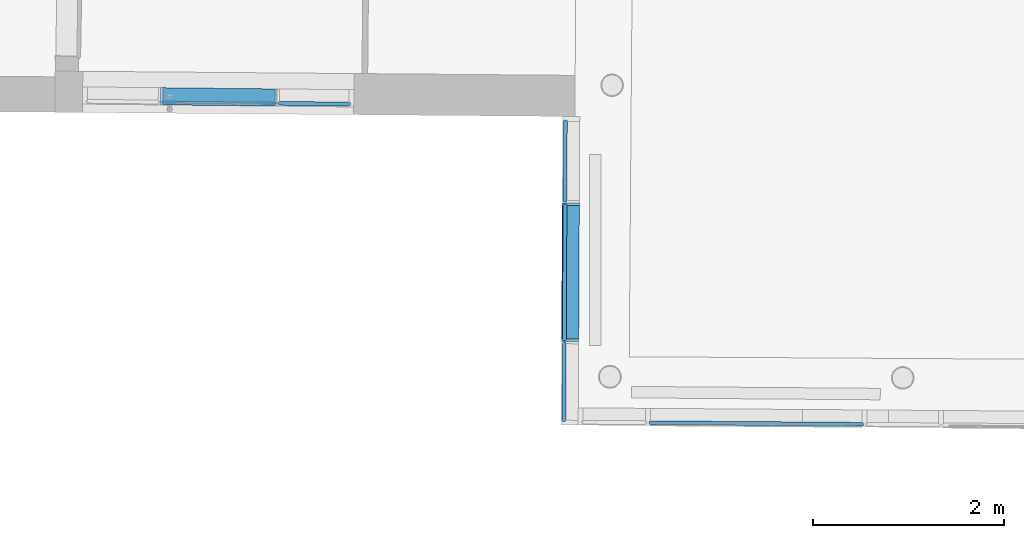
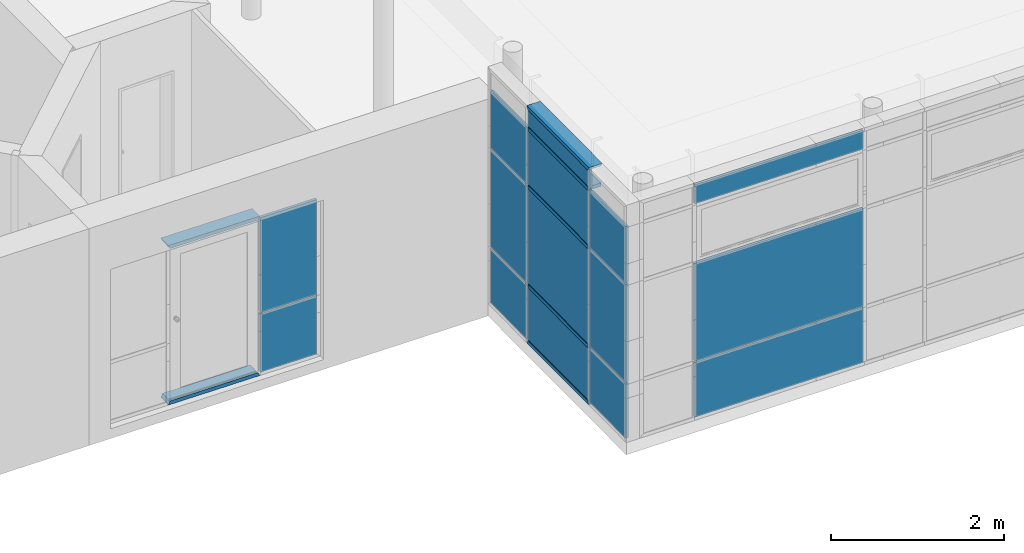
# One storey, part 139 of 196: 22 building element parts, 3 elements without a shape of their own.
"""IFC2X3 building model written with IfcOpenShell, lengths in metres."""

from ifc_helpers import new_model, entity, si_unit, converted_unit, derived_unit, money_unit, direction, frame, origin_with_axes, place, context, subcontext, project, spatial, faceted_brep, material, type_object, element, aggregate, save


model = new_model("IFC2X3")

# Units and contexts
model_context = context("Model", 3, precision=1e-05, world=origin_with_axes(), true_north=direction((0.0, 1.0)))
body_context = subcontext(model_context, "Body", "Model", "MODEL_VIEW")
ifc_project = project(units=[si_unit("LENGTHUNIT", "METRE"), si_unit("AREAUNIT", "SQUARE_METRE"), si_unit("VOLUMEUNIT", "CUBIC_METRE"), converted_unit("PLANEANGLEUNIT", "DEGREE", entity("IfcPlaneAngleMeasure", 0.0174532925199), si_unit("PLANEANGLEUNIT", "RADIAN"), dimensions=[0, 0, 0, 0, 0, 0, 0]), money_unit("EUR"), converted_unit("TIMEUNIT", "Year", entity("IfcTimeMeasure", 31556926.0), si_unit("TIMEUNIT", "SECOND"), dimensions=[0, 0, 1, 0, 0, 0, 0]), si_unit("MASSUNIT", "GRAM", prefix="KILO"), si_unit("THERMODYNAMICTEMPERATUREUNIT", "DEGREE_CELSIUS"), si_unit("LUMINOUSINTENSITYUNIT", "LUMEN"), si_unit("ENERGYUNIT", "JOULE", prefix="MEGA"), derived_unit("THERMALCONDUCTANCEUNIT", [(si_unit("POWERUNIT", "WATT"), 1), (si_unit("LENGTHUNIT", "METRE"), -1), (si_unit("THERMODYNAMICTEMPERATUREUNIT", "KELVIN"), -1)]), derived_unit("SPECIFICHEATCAPACITYUNIT", [(si_unit("ENERGYUNIT", "JOULE"), 1), (si_unit("MASSUNIT", "GRAM", prefix="KILO"), -1), (si_unit("THERMODYNAMICTEMPERATUREUNIT", "KELVIN"), -1)]), derived_unit("MASSDENSITYUNIT", [(si_unit("MASSUNIT", "GRAM", prefix="KILO"), 1), (si_unit("VOLUMEUNIT", "CUBIC_METRE"), -1)])], contexts=[model_context])

# Site, building, storey
site_placement = place(None, origin_with_axes())
site = spatial("IfcSite", under=ifc_project, at=site_placement, Name="Gelände", CompositionType="ELEMENT")
building_placement = place(site_placement, origin_with_axes())
building = spatial("IfcBuilding", under=site, at=building_placement, Name="Gebäude", CompositionType="ELEMENT")
storey_placement = place(building_placement, frame((0.0, 0.0, -3.0), z_axis=(0.0, 0.0, 1.0), x_axis=(1.0, 0.0, 0.0)))
storey = spatial("IfcBuildingStorey", under=building, at=storey_placement, Name="KELLERGESCHOSS", CompositionType="ELEMENT", Elevation=-3.0)

# Proxy, building element parts
building_element_proxy_type = type_object("IfcBuildingElementProxyType", Name="Fassadentyp", PredefinedType="NOTDEFINED")
proxy_1_placement = place(storey_placement, frame((2.54090824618, 35.7894672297, 0.610000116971), z_axis=(0.0, 0.0, 1.0), x_axis=(1.0, 0.0, 0.0)))
proxy_1 = element("IfcBuildingElementProxy", 1, at=proxy_1_placement, inside=storey, type_object=building_element_proxy_type, Name="Fassade-002")
ifc_material_1 = material(Name="45_Glas, Normalglas")
building_element_part_1_placement = place(proxy_1_placement, origin_with_axes())
building_element_part_1 = element("IfcBuildingElementPart", 2, at=building_element_part_1_placement, material=ifc_material_1, Name="45_Glas, Normalglas", context=body_context, shape_type="Brep", body=[
    faceted_brep([(-0.372513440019, 0.0226998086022, 2.20648769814), (-1.01054791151, 0.0273230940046, 2.20648769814), (-1.0108377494, -0.0126758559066, 2.20648769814), (-0.372803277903, -0.017299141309, 2.20648769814), (-0.372513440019, 0.0226998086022, 1.41999988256), (-0.372513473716, 0.0226998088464, 0.828463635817), (-1.01054791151, 0.0273230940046, 0.828463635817), (-2.61393323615, 0.0389414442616, 0.828463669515), (-2.61393323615, 0.0389414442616, 1.41999988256), (-2.61393323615, 0.0389414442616, 2.20648769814), (-2.61422307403, -0.00105750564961, 2.20648769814), (-2.61422307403, -0.00105750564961, 1.41999988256), (-2.61422307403, -0.00105750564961, 0.828463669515), (-1.0108377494, -0.0126758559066, 0.828463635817), (-0.372803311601, -0.0172991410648, 0.828463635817), (-0.372803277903, -0.017299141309, 1.41999988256)], [[[0, 1, 2, 3]], [[0, 4, 5, 6, 7, 8, 9, 1]], [[1, 9, 10, 2]], [[3, 2, 10, 11, 12, 13, 14, 15]], [[4, 0, 3, 15]], [[5, 4, 15, 14]], [[6, 5, 14, 13]], [[7, 6, 13, 12]], [[8, 7, 12, 11]], [[9, 8, 11, 10]]]),
])
building_element_part_2_placement = place(proxy_1_placement, origin_with_axes())
building_element_part_2 = element("IfcBuildingElementPart", 3, at=building_element_part_2_placement, material=ifc_material_1, Name="45_Glas, Normalglas", context=body_context, shape_type="Brep", body=[
    faceted_brep([(-0.372513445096, 0.022699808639, 3.31499992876), (-1.01054791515, 0.027323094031, 3.31499992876), (-1.01083775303, -0.0126758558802, 3.31499992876), (-0.37280328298, -0.0172991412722, 3.31499992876), (-0.372513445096, 0.022699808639, 3.04649574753), (-1.01054791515, 0.027323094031, 3.04649578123), (-2.61393323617, 0.0389414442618, 3.04649578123), (-2.61393323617, 0.0389414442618, 3.31499992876), (-2.61422307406, -0.00105750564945, 3.31499992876), (-2.61422307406, -0.00105750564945, 3.04649578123), (-1.01083775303, -0.0126758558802, 3.04649578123), (-0.37280328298, -0.0172991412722, 3.04649574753)], [[[0, 1, 2, 3]], [[0, 4, 5, 6, 7, 1]], [[1, 7, 8, 2]], [[3, 2, 8, 9, 10, 11]], [[4, 0, 3, 11]], [[5, 4, 11, 10]], [[6, 5, 10, 9]], [[7, 6, 9, 8]]]),
])
building_element_part_3_placement = place(proxy_1_placement, origin_with_axes())
building_element_part_3 = element("IfcBuildingElementPart", 4, at=building_element_part_3_placement, material=ifc_material_1, Name="45_Glas, Normalglas", context=body_context, shape_type="Brep", body=[
    faceted_brep([(-0.372513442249, 0.0226998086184, 0.808463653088), (-1.01054791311, 0.0273230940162, 0.808463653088), (-1.01083775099, -0.012675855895, 0.808463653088), (-0.372803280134, -0.0172991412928, 0.808463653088), (-0.372513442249, 0.0226998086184, 0.619999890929), (-0.372513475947, 0.0226998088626, 0.034999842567), (-1.01054791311, 0.0273230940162, 0.034999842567), (-2.61393323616, 0.0389414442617, 0.0349999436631), (-2.61393323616, 0.0389414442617, 0.619999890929), (-2.61393323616, 0.0389414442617, 0.808463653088), (-2.61422307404, -0.00105750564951, 0.808463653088), (-2.61422307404, -0.00105750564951, 0.619999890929), (-2.61422307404, -0.00105750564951, 0.0349999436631), (-1.01083775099, -0.012675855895, 0.034999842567), (-0.372803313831, -0.0172991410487, 0.034999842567), (-0.372803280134, -0.0172991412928, 0.619999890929)], [[[0, 1, 2, 3]], [[0, 4, 5, 6, 7, 8, 9, 1]], [[1, 9, 10, 2]], [[3, 2, 10, 11, 12, 13, 14, 15]], [[4, 0, 3, 15]], [[5, 4, 15, 14]], [[6, 5, 14, 13]], [[7, 6, 13, 12]], [[8, 7, 12, 11]], [[9, 8, 11, 10]]]),
])
aggregate(proxy_1, [building_element_part_1, building_element_part_2, building_element_part_3])

proxy_2_placement = place(storey_placement, frame((-5.58247621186, 39.1627608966, 0.57767685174), z_axis=(0.0, 0.0, 1.0), x_axis=(1.0, 0.0, 0.0)))
proxy_2 = element("IfcBuildingElementProxy", 5, at=proxy_2_placement, inside=storey, type_object=building_element_proxy_type, Name="Fassade-002")
building_element_part_4_placement = place(proxy_2_placement, origin_with_axes())
building_element_part_4 = element("IfcBuildingElementPart", 6, at=building_element_part_4_placement, material=ifc_material_1, Name="45_Glas, Normalglas", context=body_context, shape_type="Brep", body=[
    faceted_brep([(2.39109553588, -0.00492402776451, 2.21581791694), (1.63548328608, 0.00295258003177, 2.21581791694), (1.63506634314, -0.0370452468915, 2.21581791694), (2.39067859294, -0.0449218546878, 2.21581791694), (2.39109553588, -0.00492402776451, 1.41999992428), (2.39109553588, -0.00492402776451, 0.879344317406), (1.63548328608, 0.00295258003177, 0.879344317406), (1.63548328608, 0.00295258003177, 1.41999992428), (1.63506634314, -0.0370452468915, 1.41999992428), (1.63506634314, -0.0370452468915, 0.879344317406), (2.39067859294, -0.0449218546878, 0.879344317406), (2.39067859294, -0.0449218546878, 1.41999992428)], [[[0, 1, 2, 3]], [[0, 4, 5, 6, 7, 1]], [[1, 7, 8, 2]], [[3, 2, 8, 9, 10, 11]], [[4, 0, 3, 11]], [[5, 4, 11, 10]], [[6, 5, 10, 9]], [[7, 6, 9, 8]]]),
])
building_element_part_5_placement = place(proxy_2_placement, origin_with_axes())
building_element_part_5 = element("IfcBuildingElementPart", 7, at=building_element_part_5_placement, material=ifc_material_1, Name="45_Glas, Normalglas", context=body_context, shape_type="Brep", body=[
    faceted_brep([(2.39109554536, -0.00492402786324, 0.859344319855), (1.63548328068, 0.00295258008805, 0.859344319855), (1.63506633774, -0.0370452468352, 0.859344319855), (2.39067860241, -0.0449218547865, 0.859344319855), (2.39109554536, -0.00492402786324, 0.619999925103), (2.39109554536, -0.00492402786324, 0.0350000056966), (1.63548328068, 0.00295258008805, 0.0350000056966), (1.63548328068, 0.00295258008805, 0.619999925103), (1.63506633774, -0.0370452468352, 0.619999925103), (1.63506633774, -0.0370452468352, 0.0350000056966), (2.39067860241, -0.0449218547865, 0.0350000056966), (2.39067860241, -0.0449218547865, 0.619999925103)], [[[0, 1, 2, 3]], [[0, 4, 5, 6, 7, 1]], [[1, 7, 8, 2]], [[3, 2, 8, 9, 10, 11]], [[4, 0, 3, 11]], [[5, 4, 11, 10]], [[6, 5, 10, 9]], [[7, 6, 9, 8]]]),
])
ifc_material_2 = material(Name="53_Metall, Aluminium")
building_element_part_6_placement = place(proxy_2_placement, origin_with_axes())
building_element_part_6 = element("IfcBuildingElementPart", 8, at=building_element_part_6_placement, material=ifc_material_2, Name="53_Metall, Aluminium", context=body_context, shape_type="Brep", body=[
    faceted_brep([(1.60788054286, -0.0067602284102, 2.21581791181), (1.60038095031, -0.00668205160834, 2.20081791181), (1.60184025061, 0.133310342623, 2.20081791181), (1.62683889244, 0.133049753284, 2.25081791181), (1.6249626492, -0.0469404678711, 2.25081791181), (1.59996400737, -0.0466798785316, 2.20081791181), (1.60017247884, -0.02668096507, 2.20081791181), (1.60767207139, -0.0267591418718, 2.21581791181), (0.425559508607, 0.00556445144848, 2.21581791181), (0.433059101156, 0.00548627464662, 2.20081791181), (0.434518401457, 0.145478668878, 2.20081791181), (0.40951975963, 0.145739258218, 2.25081791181), (0.407643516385, -0.0342509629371, 2.25081791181), (0.432642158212, -0.0345115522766, 2.20081791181), (0.432850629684, -0.014512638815, 2.20081791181), (0.425351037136, -0.0144344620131, 2.21581791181)], [[[0, 1, 2, 3, 4, 5, 6, 7]], [[0, 8, 9, 1]], [[9, 10, 2, 1]], [[2, 10, 11, 3]], [[3, 11, 12, 4]], [[4, 12, 13, 5]], [[6, 5, 13, 14]], [[14, 15, 7, 6]], [[7, 15, 8, 0]], [[8, 15, 14, 13, 12, 11, 10, 9]]]),
])
building_element_part_7_placement = place(proxy_2_placement, origin_with_axes())
building_element_part_7 = element("IfcBuildingElementPart", 9, at=building_element_part_7_placement, material=ifc_material_2, Name="53_Metall, Aluminium", context=body_context, shape_type="Brep", body=[
    faceted_brep([(1.60788054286, -0.0067602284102, 0.035), (1.60767207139, -0.0267591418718, 0.035), (1.60017247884, -0.02668096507, 0.05), (1.59996400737, -0.0466798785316, 0.05), (1.6249626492, -0.0469404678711, 0.0), (1.62683889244, 0.133049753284, 0.0), (1.60184025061, 0.133310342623, 0.05), (1.60038095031, -0.00668205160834, 0.05), (0.425559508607, 0.00556445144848, 0.035), (0.425351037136, -0.0144344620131, 0.035), (0.432850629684, -0.014512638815, 0.05), (0.432642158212, -0.0345115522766, 0.05), (0.407643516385, -0.0342509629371, 0.0), (0.40951975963, 0.145739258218, 0.0), (0.434518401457, 0.145478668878, 0.05), (0.433059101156, 0.00548627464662, 0.05)], [[[0, 1, 2, 3, 4, 5, 6, 7]], [[1, 0, 8, 9]], [[10, 2, 1, 9]], [[2, 10, 11, 3]], [[4, 3, 11, 12]], [[5, 4, 12, 13]], [[6, 5, 13, 14]], [[15, 7, 6, 14]], [[0, 7, 15, 8]], [[8, 15, 14, 13, 12, 11, 10, 9]]]),
])
aggregate(proxy_2, [building_element_part_4, building_element_part_5, building_element_part_6, building_element_part_7])

proxy_3_placement = place(storey_placement, frame((-0.953000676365, 37.3811147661, 0.610000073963), z_axis=(0.0, 0.0, 1.0), x_axis=(1.0, 0.0, 0.0)))
proxy_3 = element("IfcBuildingElementProxy", 10, at=proxy_3_placement, inside=storey, type_object=building_element_proxy_type, Name="Fassade-002")
building_element_part_8_placement = place(proxy_3_placement, origin_with_axes())
building_element_part_8 = element("IfcBuildingElementPart", 11, at=building_element_part_8_placement, material=ifc_material_1, Name="45_Glas, Normalglas", context=body_context, shape_type="Brep", body=[
    faceted_brep([(0.0165595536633, -0.712550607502, 3.02649580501), (0.0234399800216, 0.712357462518, 3.02649580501), (-0.0165595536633, 0.712550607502, 3.02649580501), (-0.0234399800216, -0.712357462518, 3.02649580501), (0.0165595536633, -0.712550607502, 2.51999993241), (0.0165595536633, -0.712550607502, 2.22648774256), (0.0234399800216, 0.712357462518, 2.22648774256), (0.0234399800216, 0.712357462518, 2.51999993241), (-0.0165595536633, 0.712550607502, 2.51999993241), (-0.0165595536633, 0.712550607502, 2.22648774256), (-0.0234399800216, -0.712357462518, 2.22648774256), (-0.0234399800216, -0.712357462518, 2.51999993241)], [[[0, 1, 2, 3]], [[0, 4, 5, 6, 7, 1]], [[1, 7, 8, 2]], [[3, 2, 8, 9, 10, 11]], [[4, 0, 3, 11]], [[5, 4, 11, 10]], [[6, 5, 10, 9]], [[7, 6, 9, 8]]]),
])
building_element_part_9_placement = place(proxy_3_placement, origin_with_axes())
building_element_part_9 = element("IfcBuildingElementPart", 12, at=building_element_part_9_placement, material=ifc_material_1, Name="45_Glas, Normalglas", context=body_context, shape_type="Brep", body=[
    faceted_brep([(0.0124591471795, -1.56172796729, 0.808463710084), (0.0164629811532, -0.732550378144, 0.808463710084), (-0.0235365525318, -0.73235723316, 0.808463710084), (-0.0275403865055, -1.56153482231, 0.808463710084), (0.0124591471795, -1.56172796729, 0.619999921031), (0.0124591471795, -1.56172796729, 0.0350000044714), (0.0164629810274, -0.732550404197, 0.0350000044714), (0.0164629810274, -0.732550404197, 0.619999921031), (-0.0235365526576, -0.732357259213, 0.619999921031), (-0.0235365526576, -0.732357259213, 0.0350000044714), (-0.0275403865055, -1.56153482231, 0.0350000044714), (-0.0275403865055, -1.56153482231, 0.619999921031)], [[[0, 1, 2, 3]], [[0, 4, 5, 6, 7, 1]], [[1, 7, 8, 2]], [[3, 2, 8, 9, 10, 11]], [[4, 0, 3, 11]], [[5, 4, 11, 10]], [[6, 5, 10, 9]], [[7, 6, 9, 8]]]),
])
building_element_part_10_placement = place(proxy_3_placement, origin_with_axes())
building_element_part_10 = element("IfcBuildingElementPart", 13, at=building_element_part_10_placement, material=ifc_material_1, Name="45_Glas, Normalglas", context=body_context, shape_type="Brep", body=[
    faceted_brep([(0.0235365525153, 0.732357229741, 2.20648774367), (0.0276849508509, 1.59147350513, 2.20648774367), (-0.0123145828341, 1.59166665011, 2.20648774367), (-0.0164629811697, 0.732550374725, 2.20648774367), (0.0235365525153, 0.732357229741, 1.41999992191), (0.0235365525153, 0.732357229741, 0.828463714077), (0.0276849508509, 1.59147350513, 0.828463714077), (0.0276849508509, 1.59147350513, 1.41999992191), (-0.0123145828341, 1.59166665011, 1.41999992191), (-0.0123145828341, 1.59166665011, 0.828463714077), (-0.0164629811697, 0.732550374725, 0.828463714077), (-0.0164629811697, 0.732550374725, 1.41999992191)], [[[0, 1, 2, 3]], [[0, 4, 5, 6, 7, 1]], [[1, 7, 8, 2]], [[3, 2, 8, 9, 10, 11]], [[4, 0, 3, 11]], [[5, 4, 11, 10]], [[6, 5, 10, 9]], [[7, 6, 9, 8]]]),
])
building_element_part_11_placement = place(proxy_3_placement, origin_with_axes())
building_element_part_11 = element("IfcBuildingElementPart", 14, at=building_element_part_11_placement, material=ifc_material_1, Name="45_Glas, Normalglas", context=body_context, shape_type="Brep", body=[
    faceted_brep([(0.0124591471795, -1.56172796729, 3.02649579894), (0.0164629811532, -0.732550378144, 3.02649579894), (-0.0235365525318, -0.73235723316, 3.02649579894), (-0.0275403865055, -1.56153482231, 3.02649579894), (0.0124591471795, -1.56172796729, 2.51999992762), (0.0124591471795, -1.56172796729, 2.22648774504), (0.0164629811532, -0.732550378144, 2.22648774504), (0.0164629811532, -0.732550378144, 2.51999992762), (-0.0235365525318, -0.73235723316, 2.51999992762), (-0.0235365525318, -0.73235723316, 2.22648774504), (-0.0275403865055, -1.56153482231, 2.22648774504), (-0.0275403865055, -1.56153482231, 2.51999992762)], [[[0, 1, 2, 3]], [[0, 4, 5, 6, 7, 1]], [[1, 7, 8, 2]], [[3, 2, 8, 9, 10, 11]], [[4, 0, 3, 11]], [[5, 4, 11, 10]], [[6, 5, 10, 9]], [[7, 6, 9, 8]]]),
])
building_element_part_12_placement = place(proxy_3_placement, origin_with_axes())
building_element_part_12 = element("IfcBuildingElementPart", 15, at=building_element_part_12_placement, material=ifc_material_1, Name="45_Glas, Normalglas", context=body_context, shape_type="Brep", body=[
    faceted_brep([(0.0124591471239, -1.56172797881, 2.20648774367), (0.0164629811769, -0.732550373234, 2.20648774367), (-0.0235365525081, -0.732357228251, 2.20648774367), (-0.0275403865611, -1.56153483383, 2.20648774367), (0.0124591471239, -1.56172797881, 1.41999992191), (0.0124591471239, -1.56172797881, 0.828463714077), (0.0164629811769, -0.732550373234, 0.828463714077), (0.0164629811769, -0.732550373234, 1.41999992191), (-0.0235365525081, -0.732357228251, 1.41999992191), (-0.0235365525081, -0.732357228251, 0.828463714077), (-0.0275403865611, -1.56153483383, 0.828463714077), (-0.0275403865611, -1.56153483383, 1.41999992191)], [[[0, 1, 2, 3]], [[0, 4, 5, 6, 7, 1]], [[1, 7, 8, 2]], [[3, 2, 8, 9, 10, 11]], [[4, 0, 3, 11]], [[5, 4, 11, 10]], [[6, 5, 10, 9]], [[7, 6, 9, 8]]]),
])
building_element_part_13_placement = place(proxy_3_placement, origin_with_axes())
building_element_part_13 = element("IfcBuildingElementPart", 16, at=building_element_part_13_placement, material=ifc_material_1, Name="45_Glas, Normalglas", context=body_context, shape_type="Brep", body=[
    faceted_brep([(0.0165595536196, -0.712550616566, 0.808463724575), (0.0234399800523, 0.71235746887, 0.808463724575), (-0.0165595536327, 0.712550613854, 0.808463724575), (-0.0234399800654, -0.712357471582, 0.808463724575), (0.0165595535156, -0.712550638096, 0.619999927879), (0.0165595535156, -0.712550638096, 0.0349999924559), (0.0234399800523, 0.71235746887, 0.0349999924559), (0.0234399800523, 0.71235746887, 0.619999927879), (-0.0165595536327, 0.712550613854, 0.619999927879), (-0.0165595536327, 0.712550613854, 0.0349999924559), (-0.0234399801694, -0.712357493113, 0.0349999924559), (-0.0234399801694, -0.712357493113, 0.619999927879)], [[[0, 1, 2, 3]], [[0, 4, 5, 6, 7, 1]], [[1, 7, 8, 2]], [[3, 2, 8, 9, 10, 11]], [[4, 0, 3, 11]], [[5, 4, 11, 10]], [[6, 5, 10, 9]], [[7, 6, 9, 8]]]),
])
building_element_part_14_placement = place(proxy_3_placement, origin_with_axes())
building_element_part_14 = element("IfcBuildingElementPart", 17, at=building_element_part_14_placement, material=ifc_material_1, Name="45_Glas, Normalglas", context=body_context, shape_type="Brep", body=[
    faceted_brep([(0.0235365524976, 0.732357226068, 3.02649580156), (0.0276849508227, 1.59147349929, 3.02649580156), (-0.0123145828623, 1.59166664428, 3.02649580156), (-0.0164629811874, 0.732550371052, 3.02649580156), (0.0235365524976, 0.732357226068, 2.51999992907), (0.0235365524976, 0.732357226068, 2.22648773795), (0.0276849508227, 1.59147349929, 2.22648773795), (0.0276849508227, 1.59147349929, 2.51999992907), (-0.0123145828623, 1.59166664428, 2.51999992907), (-0.0123145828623, 1.59166664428, 2.22648773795), (-0.0164629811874, 0.732550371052, 2.22648773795), (-0.0164629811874, 0.732550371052, 2.51999992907)], [[[0, 1, 2, 3]], [[0, 4, 5, 6, 7, 1]], [[1, 7, 8, 2]], [[3, 2, 8, 9, 10, 11]], [[4, 0, 3, 11]], [[5, 4, 11, 10]], [[6, 5, 10, 9]], [[7, 6, 9, 8]]]),
])
building_element_part_15_placement = place(proxy_3_placement, origin_with_axes())
building_element_part_15 = element("IfcBuildingElementPart", 18, at=building_element_part_15_placement, material=ifc_material_1, Name="45_Glas, Normalglas", context=body_context, shape_type="Brep", body=[
    faceted_brep([(0.0235365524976, 0.732357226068, 0.808463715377), (0.0276849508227, 1.59147349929, 0.808463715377), (-0.0123145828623, 1.59166664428, 0.808463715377), (-0.0164629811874, 0.732550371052, 0.808463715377), (0.0235365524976, 0.732357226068, 0.619999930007), (0.0235365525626, 0.732357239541, 0.0349999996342), (0.0276849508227, 1.59147349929, 0.0349999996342), (0.0276849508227, 1.59147349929, 0.619999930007), (-0.0123145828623, 1.59166664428, 0.619999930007), (-0.0123145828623, 1.59166664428, 0.0349999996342), (-0.0164629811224, 0.732550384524, 0.0349999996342), (-0.0164629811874, 0.732550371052, 0.619999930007)], [[[0, 1, 2, 3]], [[0, 4, 5, 6, 7, 1]], [[1, 7, 8, 2]], [[3, 2, 8, 9, 10, 11]], [[4, 0, 3, 11]], [[5, 4, 11, 10]], [[6, 5, 10, 9]], [[7, 6, 9, 8]]]),
])
building_element_part_16_placement = place(proxy_3_placement, origin_with_axes())
building_element_part_16 = element("IfcBuildingElementPart", 19, at=building_element_part_16_placement, material=ifc_material_1, Name="45_Glas, Normalglas", context=body_context, shape_type="Brep", body=[
    faceted_brep([(0.0165595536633, -0.712550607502, 2.20648775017), (0.0234399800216, 0.712357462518, 2.20648775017), (-0.0165595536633, 0.712550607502, 2.20648775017), (-0.0234399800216, -0.712357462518, 2.20648775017), (0.0165595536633, -0.712550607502, 1.41999993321), (0.0165595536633, -0.712550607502, 0.82846371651), (0.0234399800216, 0.712357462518, 0.82846371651), (0.0234399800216, 0.712357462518, 1.41999993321), (-0.0165595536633, 0.712550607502, 1.41999993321), (-0.0165595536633, 0.712550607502, 0.82846371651), (-0.0234399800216, -0.712357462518, 0.82846371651), (-0.0234399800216, -0.712357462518, 1.41999993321)], [[[0, 1, 2, 3]], [[0, 4, 5, 6, 7, 1]], [[1, 7, 8, 2]], [[3, 2, 8, 9, 10, 11]], [[4, 0, 3, 11]], [[5, 4, 11, 10]], [[6, 5, 10, 9]], [[7, 6, 9, 8]]]),
])
building_element_part_17_placement = place(proxy_3_placement, origin_with_axes())
building_element_part_17 = element("IfcBuildingElementPart", 20, at=building_element_part_17_placement, material=ifc_material_1, Name="45_Glas, Normalglas", context=body_context, shape_type="Brep", body=[
    faceted_brep([(0.0165595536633, -0.712550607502, 3.31500001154), (0.0234399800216, 0.712357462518, 3.31500001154), (-0.0165595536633, 0.712550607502, 3.31500001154), (-0.0234399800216, -0.712357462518, 3.31500001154), (0.0165595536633, -0.712550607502, 3.04649580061), (0.0234399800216, 0.712357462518, 3.04649580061), (-0.0165595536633, 0.712550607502, 3.04649580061), (-0.0234399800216, -0.712357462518, 3.04649580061)], [[[0, 1, 2, 3]], [[0, 4, 5, 1]], [[1, 5, 6, 2]], [[3, 2, 6, 7]], [[4, 0, 3, 7]], [[5, 4, 7, 6]]]),
])
building_element_part_18_placement = place(proxy_3_placement, origin_with_axes())
building_element_part_18 = element("IfcBuildingElementPart", 21, at=building_element_part_18_placement, material=ifc_material_2, Name="53_Metall, Aluminium", context=body_context, shape_type="Brep", body=[
    faceted_brep([(0.00663209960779, -0.697502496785, 3.02649579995), (0.00663209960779, -0.697502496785, 3.01149579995), (0.146630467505, -0.698178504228, 3.01149579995), (0.146630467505, -0.698178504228, 3.06149579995), (0.00663209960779, -0.697502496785, 3.06149579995), (0.00663209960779, -0.697502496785, 3.04649579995), (-0.0133676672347, -0.697405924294, 3.04649579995), (-0.0133676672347, -0.697405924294, 3.06149579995), (-0.0333674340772, -0.697309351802, 3.06149579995), (-0.0333674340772, -0.697309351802, 3.01149579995), (-0.0133676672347, -0.697405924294, 3.01149579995), (-0.0133676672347, -0.697405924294, 3.02649579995), (0.0133676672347, 0.697405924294, 3.02649579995), (0.0133676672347, 0.697405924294, 3.01149579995), (0.153366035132, 0.696729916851, 3.01149579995), (0.153366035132, 0.696729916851, 3.06149579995), (0.0133676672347, 0.697405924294, 3.06149579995), (0.0133676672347, 0.697405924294, 3.04649579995), (-0.00663209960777, 0.697502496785, 3.04649579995), (-0.00663209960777, 0.697502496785, 3.06149579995), (-0.0266318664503, 0.697599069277, 3.06149579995), (-0.0266318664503, 0.697599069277, 3.01149579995), (-0.00663209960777, 0.697502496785, 3.01149579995), (-0.00663209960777, 0.697502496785, 3.02649579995)], [[[0, 1, 2, 3, 4, 5, 6, 7, 8, 9, 10, 11]], [[1, 0, 12, 13]], [[1, 13, 14, 2]], [[2, 14, 15, 3]], [[4, 3, 15, 16]], [[4, 16, 17, 5]], [[5, 17, 18, 6]], [[7, 6, 18, 19]], [[19, 20, 8, 7]], [[8, 20, 21, 9]], [[22, 10, 9, 21]], [[11, 10, 22, 23]], [[0, 11, 23, 12]], [[23, 22, 21, 20, 19, 18, 17, 16, 15, 14, 13, 12]]]),
])
building_element_part_19_placement = place(proxy_3_placement, origin_with_axes())
building_element_part_19 = element("IfcBuildingElementPart", 22, at=building_element_part_19_placement, material=ifc_material_2, Name="53_Metall, Aluminium", context=body_context, shape_type="Brep", body=[
    faceted_brep([(0.00663209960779, -0.697502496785, 2.2064877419), (0.00663209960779, -0.697502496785, 2.1914877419), (0.146630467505, -0.698178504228, 2.1914877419), (0.146630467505, -0.698178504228, 2.2414877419), (0.00663209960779, -0.697502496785, 2.2414877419), (0.00663209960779, -0.697502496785, 2.2264877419), (-0.0133676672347, -0.697405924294, 2.2264877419), (-0.0133676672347, -0.697405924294, 2.2414877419), (-0.0333674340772, -0.697309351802, 2.2414877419), (-0.0333674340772, -0.697309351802, 2.1914877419), (-0.0133676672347, -0.697405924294, 2.1914877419), (-0.0133676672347, -0.697405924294, 2.2064877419), (0.0133676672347, 0.697405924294, 2.2064877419), (0.0133676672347, 0.697405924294, 2.1914877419), (0.153366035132, 0.696729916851, 2.1914877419), (0.153366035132, 0.696729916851, 2.2414877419), (0.0133676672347, 0.697405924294, 2.2414877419), (0.0133676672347, 0.697405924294, 2.2264877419), (-0.00663209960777, 0.697502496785, 2.2264877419), (-0.00663209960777, 0.697502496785, 2.2414877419), (-0.0266318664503, 0.697599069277, 2.2414877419), (-0.0266318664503, 0.697599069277, 2.1914877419), (-0.00663209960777, 0.697502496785, 2.1914877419), (-0.00663209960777, 0.697502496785, 2.2064877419)], [[[0, 1, 2, 3, 4, 5, 6, 7, 8, 9, 10, 11]], [[1, 0, 12, 13]], [[1, 13, 14, 2]], [[2, 14, 15, 3]], [[4, 3, 15, 16]], [[4, 16, 17, 5]], [[5, 17, 18, 6]], [[7, 6, 18, 19]], [[19, 20, 8, 7]], [[8, 20, 21, 9]], [[22, 10, 9, 21]], [[11, 10, 22, 23]], [[0, 11, 23, 12]], [[23, 22, 21, 20, 19, 18, 17, 16, 15, 14, 13, 12]]]),
])
building_element_part_20_placement = place(proxy_3_placement, origin_with_axes())
building_element_part_20 = element("IfcBuildingElementPart", 23, at=building_element_part_20_placement, material=ifc_material_2, Name="53_Metall, Aluminium", context=body_context, shape_type="Brep", body=[
    faceted_brep([(0.00663209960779, -0.697502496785, 0.808463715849), (0.00663209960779, -0.697502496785, 0.793463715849), (0.146630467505, -0.698178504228, 0.793463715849), (0.146630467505, -0.698178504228, 0.843463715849), (0.00663209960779, -0.697502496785, 0.843463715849), (0.00663209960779, -0.697502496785, 0.828463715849), (-0.0133676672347, -0.697405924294, 0.828463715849), (-0.0133676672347, -0.697405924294, 0.843463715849), (-0.0333674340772, -0.697309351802, 0.843463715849), (-0.0333674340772, -0.697309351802, 0.793463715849), (-0.0133676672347, -0.697405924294, 0.793463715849), (-0.0133676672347, -0.697405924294, 0.808463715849), (0.0133676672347, 0.697405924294, 0.808463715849), (0.0133676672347, 0.697405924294, 0.793463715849), (0.153366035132, 0.696729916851, 0.793463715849), (0.153366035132, 0.696729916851, 0.843463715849), (0.0133676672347, 0.697405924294, 0.843463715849), (0.0133676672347, 0.697405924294, 0.828463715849), (-0.00663209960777, 0.697502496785, 0.828463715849), (-0.00663209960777, 0.697502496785, 0.843463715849), (-0.0266318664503, 0.697599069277, 0.843463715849), (-0.0266318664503, 0.697599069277, 0.793463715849), (-0.00663209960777, 0.697502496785, 0.793463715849), (-0.00663209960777, 0.697502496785, 0.808463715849)], [[[0, 1, 2, 3, 4, 5, 6, 7, 8, 9, 10, 11]], [[1, 0, 12, 13]], [[1, 13, 14, 2]], [[2, 14, 15, 3]], [[4, 3, 15, 16]], [[4, 16, 17, 5]], [[5, 17, 18, 6]], [[7, 6, 18, 19]], [[19, 20, 8, 7]], [[8, 20, 21, 9]], [[22, 10, 9, 21]], [[11, 10, 22, 23]], [[0, 11, 23, 12]], [[23, 22, 21, 20, 19, 18, 17, 16, 15, 14, 13, 12]]]),
])
building_element_part_21_placement = place(proxy_3_placement, origin_with_axes())
building_element_part_21 = element("IfcBuildingElementPart", 24, at=building_element_part_21_placement, material=ifc_material_2, Name="53_Metall, Aluminium", context=body_context, shape_type="Brep", body=[
    faceted_brep([(0.00659588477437, -0.705002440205, 0.035), (-0.0134038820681, -0.704905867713, 0.035), (-0.0133676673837, -0.697405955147, 0.05), (-0.0333674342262, -0.697309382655, 0.05), (-0.0334881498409, -0.722309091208, 0.0), (0.146509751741, -0.723178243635, 0.0), (0.146630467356, -0.698178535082, 0.05), (0.00663209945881, -0.697502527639, 0.05), (0.0134038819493, 0.704905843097, 0.035), (-0.00659588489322, 0.705002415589, 0.035), (-0.00663209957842, 0.697502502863, 0.05), (-0.0266318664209, 0.697599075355, 0.05), (-0.0265111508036, 0.722598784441, 0.0), (0.153486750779, 0.721729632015, 0.0), (0.153366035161, 0.696729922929, 0.05), (0.0133676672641, 0.697405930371, 0.05)], [[[0, 1, 2, 3, 4, 5, 6, 7]], [[1, 0, 8, 9]], [[10, 2, 1, 9]], [[2, 10, 11, 3]], [[4, 3, 11, 12]], [[5, 4, 12, 13]], [[6, 5, 13, 14]], [[15, 7, 6, 14]], [[0, 7, 15, 8]], [[8, 15, 14, 13, 12, 11, 10, 9]]]),
])
building_element_part_22_placement = place(proxy_3_placement, origin_with_axes())
building_element_part_22 = element("IfcBuildingElementPart", 25, at=building_element_part_22_placement, material=ifc_material_2, Name="53_Metall, Aluminium", context=body_context, shape_type="Brep", body=[
    faceted_brep([(0.00659588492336, -0.705002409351, 3.31500001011), (0.00663209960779, -0.697502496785, 3.30000001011), (0.146630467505, -0.698178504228, 3.30000001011), (0.14650975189, -0.723178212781, 3.35000001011), (-0.033488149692, -0.722309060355, 3.35000001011), (-0.0333674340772, -0.697309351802, 3.30000001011), (-0.0133676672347, -0.697405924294, 3.30000001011), (-0.0134038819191, -0.70490583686, 3.31500001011), (0.0134038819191, 0.70490583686, 3.31500001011), (0.0133676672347, 0.697405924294, 3.30000001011), (0.153366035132, 0.696729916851, 3.30000001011), (0.153486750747, 0.721729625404, 3.35000001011), (-0.0265111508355, 0.72259877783, 3.35000001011), (-0.0266318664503, 0.697599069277, 3.30000001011), (-0.00663209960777, 0.697502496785, 3.30000001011), (-0.00659588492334, 0.705002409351, 3.31500001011)], [[[0, 1, 2, 3, 4, 5, 6, 7]], [[0, 8, 9, 1]], [[9, 10, 2, 1]], [[2, 10, 11, 3]], [[3, 11, 12, 4]], [[4, 12, 13, 5]], [[6, 5, 13, 14]], [[14, 15, 7, 6]], [[7, 15, 8, 0]], [[8, 15, 14, 13, 12, 11, 10, 9]]]),
])
aggregate(proxy_3, [building_element_part_8, building_element_part_9, building_element_part_10, building_element_part_11, building_element_part_12, building_element_part_13, building_element_part_14, building_element_part_15, building_element_part_16, building_element_part_17, building_element_part_18, building_element_part_19, building_element_part_20, building_element_part_21, building_element_part_22])

save(model, "model.ifc")
